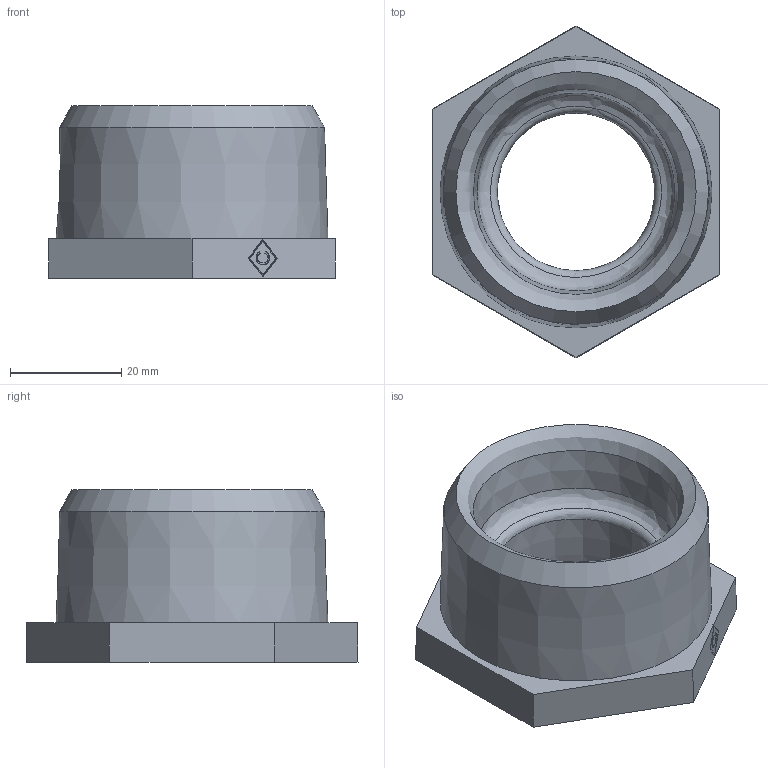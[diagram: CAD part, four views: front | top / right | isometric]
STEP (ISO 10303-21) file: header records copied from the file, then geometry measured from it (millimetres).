
FILE_DESCRIPTION((''),'2;1');
FILE_NAME('P:\Fastrack\53909_CRANE\Crane\Fig.140 Hexagon Bush\New 1.50 inch Hexagon Bush\140-1.50x1.00.stp','2009-09-15T15:10:58',('btaylor'),(''),'Autodesk Inventor 2008','Autodesk Inventor 2008','');
FILE_SCHEMA(('AUTOMOTIVE_DESIGN { 1 0 10303 214 1 1 1 1 }'));
Length unit declared in the file: millimetre
Products named in the file (1): 140-1.50x1.00
Bounding box: 51.7 x 59.7 x 31 mm (x, y, z)
Volume: 32877 mm3; surface area: 10365.6 mm2
Topology: 1 solids, 1 shells, 37 faces, 90 edges, 58 vertices
Faces by surface type: plane 21, bspline 10, cone 5, torus 1
Entity records: 1819 total; most frequent: CARTESIAN_POINT 1002, ORIENTED_EDGE 164, DIRECTION 128, EDGE_CURVE 82, VERTEX_POINT 57, VECTOR 56, LINE 56, EDGE_LOOP 49
